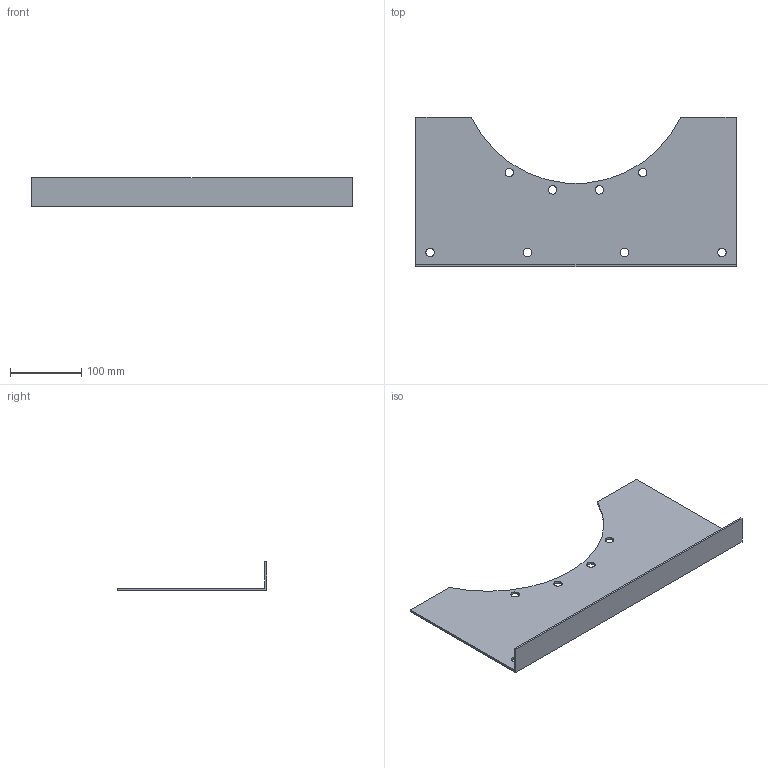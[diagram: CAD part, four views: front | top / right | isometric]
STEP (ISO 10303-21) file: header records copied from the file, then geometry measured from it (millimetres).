
FILE_DESCRIPTION(('STEP AP214'),'1');
FILE_NAME('accessory_5138902800.stp','2017-10-09T07:38:59',('TraceParts'),('TraceParts S.A.'),'Spatial InterOp 3D',' ',' ');
FILE_SCHEMA(('automotive_design'));
Length unit declared in the file: millimetre
Products named in the file (1): accessory_5138902800
Bounding box: 450 x 210 x 40 mm (x, y, z)
Volume: 271825.5 mm3; surface area: 186522.7 mm2
Topology: 1 solids, 1 shells, 26 faces, 72 edges, 48 vertices
Faces by surface type: cylinder 17, plane 9
Entity records: 1106 total; most frequent: DIRECTION 160, CARTESIAN_POINT 147, ORIENTED_EDGE 144, EDGE_CURVE 72, AXIS2_PLACEMENT_3D 61, VERTEX_POINT 48, EDGE_LOOP 42, LINE 38
